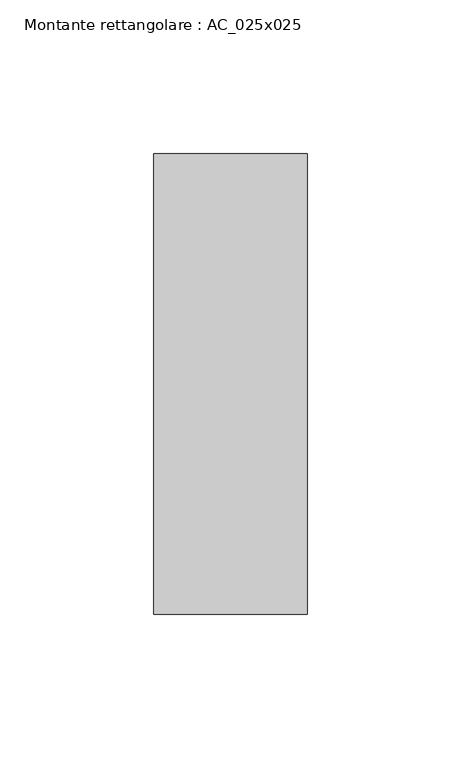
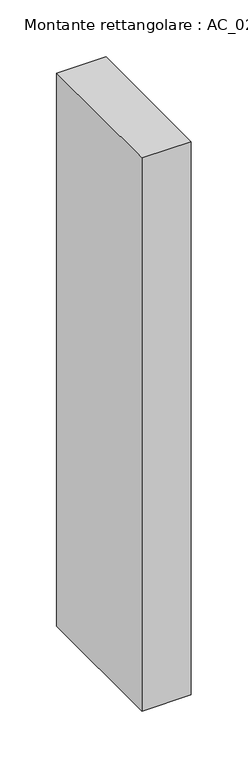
"""IFC4 building model written with IfcOpenShell, lengths in millimetres: member geometry, Montante rettangolare : AC_025x025."""

from ifc_helpers import new_model, si_unit, frame, origin, place, context, project, spatial, polyline, outline, extrude, source, transform, mapped, element, save


def montante_rettangolare_ac_025x025_9704a091(model_context):
    return source(origin(), model_context, "Body", "SweptSolid", [
        extrude(outline(polyline([(0.0, 75.0), (0.0, -75.0), (-50.0, -75.0), (-50.0, 75.0), (0.0, 75.0)])), frame((0.0, 0.0, -593.8952974), z_axis=(0.0, 0.0, 1.0), x_axis=(1.0, 0.0, 0.0)), (0.0, 0.0, 1.0), 593.8952974),
    ])


if __name__ == "__main__":
    model = new_model("IFC4")
    model_context = context("Model", 3, world=origin())
    ifc_project = project(units=[si_unit("LENGTHUNIT", "METRE", prefix="MILLI")], contexts=[model_context])
    site = spatial("IfcSite", under=ifc_project)
    building = spatial("IfcBuilding", under=site)
    placement = place(None, origin())
    montante_rettangolare_ac_025x025_shape = montante_rettangolare_ac_025x025_9704a091(model_context)
    element("IfcMember", 1, ObjectType="Montante rettangolare : AC_025x025", at=placement, inside=building, context=model_context, shape_type="MappedRepresentation", body=[
        mapped(montante_rettangolare_ac_025x025_shape, transform((0.0, 0.0, 0.0), x_axis=(1.0, 0.0, 0.0), y_axis=(0.0, 1.0, 0.0), z_axis=(0.0, 0.0, 1.0))),
    ])
    save(model, "model.ifc")
